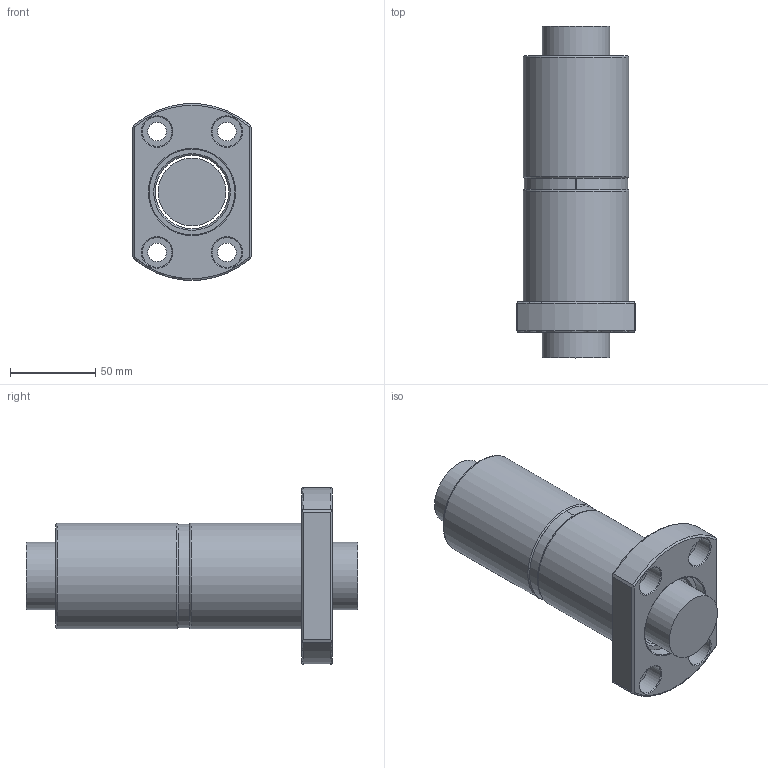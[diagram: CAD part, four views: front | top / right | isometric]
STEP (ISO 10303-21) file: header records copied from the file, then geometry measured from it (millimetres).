
FILE_DESCRIPTION(/* description */ (''),/* implementation_level */ '2;1');
FILE_NAME(/* name */ '4010.prt.step',/* time_stamp */ '2008-12-05T09:22:19+08:00',/* author */ (''),/* organization */ (''),/* preprocessor_version */ 'ST-DEVELOPER v11',/* originating_system */ 'SIEMENS UGS NX 6.0',/* authorisation */ '');
FILE_SCHEMA (('AUTOMOTIVE_DESIGN { 1 0 10303 214 1 1 1 1 }'));
Length unit declared in the file: millimetre
Products named in the file (1): 4010
Bounding box: 70 x 195 x 103.67 mm (x, y, z)
Volume: 539784.1 mm3; surface area: 101431.7 mm2
Topology: 5 solids, 5 shells, 75 faces, 163 edges, 107 vertices
Faces by surface type: plane 33, cylinder 23, cone 10, torus 9
Full cylindrical faces by diameter (mm): 11 x4, 17.5 x4, 39.95 x1, 43 x2, 50.3 x4, 62 x2
Entity records: 2066 total; most frequent: CARTESIAN_POINT 510, DIRECTION 322, ORIENTED_EDGE 242, AXIS2_PLACEMENT_3D 141, EDGE_LOOP 128, EDGE_CURVE 121, FACE_BOUND 98, VERTEX_POINT 97
